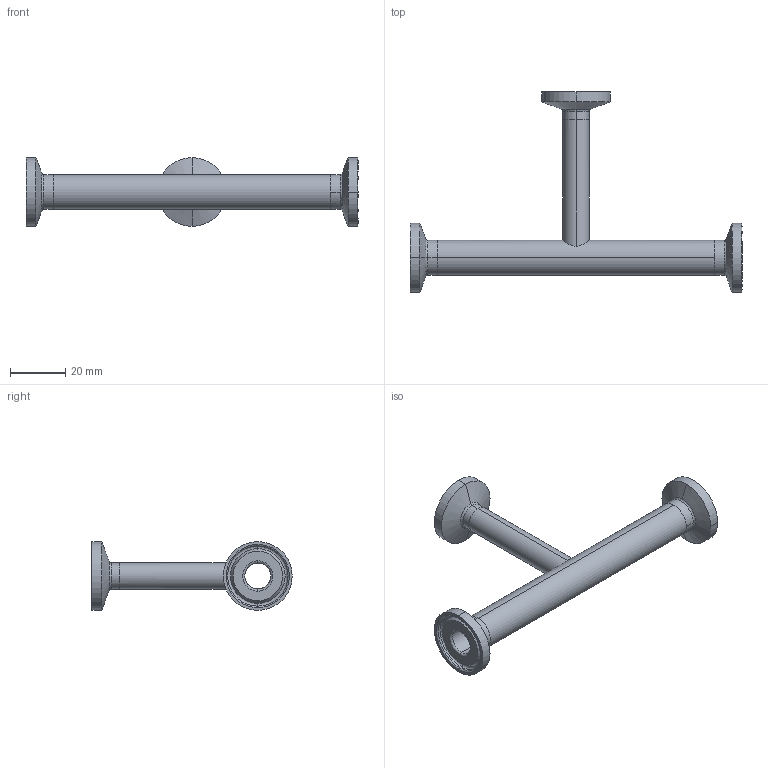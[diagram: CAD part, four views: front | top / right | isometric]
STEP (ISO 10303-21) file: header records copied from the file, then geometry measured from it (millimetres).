
FILE_DESCRIPTION (( 'STEP AP214' ), '1' );
FILE_NAME ('TEG7R6L.5x.375-...STEP', '2016-05-24T04:52:26', ( 'eran' ), ( '' ), 'SwSTEP 2.0', 'SolidWorks 2016', '' );
FILE_SCHEMA (( 'AUTOMOTIVE_DESIGN' ));
Length unit declared in the file: millimetre
Products named in the file (1): TEG7R6L.5x.375-..
Bounding box: 120.6 x 72.8 x 24.99 mm (x, y, z)
Volume: 12419.9 mm3; surface area: 14590.1 mm2
Topology: 4 solids, 4 shells, 80 faces, 178 edges, 110 vertices
Faces by surface type: cylinder 32, bspline 24, plane 12, cone 12
Entity records: 2741 total; most frequent: CARTESIAN_POINT 917, DIRECTION 394, ORIENTED_EDGE 356, EDGE_CURVE 178, AXIS2_PLACEMENT_3D 175, CIRCLE 118, VERTEX_POINT 110, EDGE_LOOP 94
